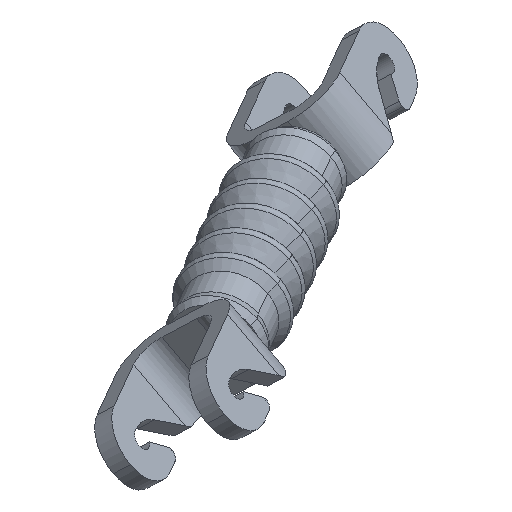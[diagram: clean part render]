
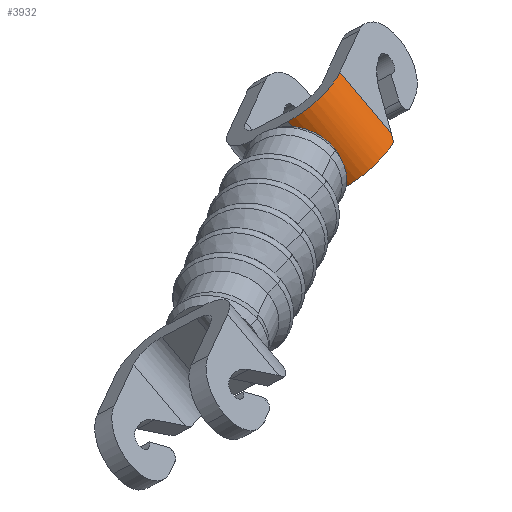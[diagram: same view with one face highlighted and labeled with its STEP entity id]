
A CAD part, isometric view. The second image highlights one B-rep face of the part: STEP entity #3932.
In plain terms, the highlighted cylindrical face has radius 9 mm (diameter 18 mm), a partial arc.
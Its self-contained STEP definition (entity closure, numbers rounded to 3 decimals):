
#116 = AXIS2_PLACEMENT_3D ( 'NONE', #916, #1543, #3016 ) ;
#262 =( BOUNDED_CURVE ( )  B_SPLINE_CURVE ( 3, ( #3231, #3534, #772, #1996 ),
 .UNSPECIFIED., .F., .T. ) 
 B_SPLINE_CURVE_WITH_KNOTS ( ( 4, 4 ),
 ( 4.576, 4.712 ),
 .UNSPECIFIED. ) 
 CURVE ( )  GEOMETRIC_REPRESENTATION_ITEM ( )  RATIONAL_B_SPLINE_CURVE ( ( 1., 0.998, 0.998, 1. ) ) 
 REPRESENTATION_ITEM ( '' )  );
#694 = VECTOR ( 'NONE', #2711, 1000. ) ;
#772 = CARTESIAN_POINT ( 'NONE',  ( -225.662, 466.048, -295.755 ) ) ;
#820 = CARTESIAN_POINT ( 'NONE',  ( -225.438, 466.476, -295.438 ) ) ;
#916 = CARTESIAN_POINT ( 'NONE',  ( -228.542, 471.853, -302.067 ) ) ;
#926 = DIRECTION ( 'NONE',  ( 0.388, -0.672, 0.631 ) ) ;
#964 = CARTESIAN_POINT ( 'NONE',  ( -226.142, 465.254, -296.438 ) ) ;
#1052 = EDGE_LOOP ( 'NONE', ( #1606, #2232, #3664, #3864, #1418 ) ) ;
#1062 = CARTESIAN_POINT ( 'NONE',  ( -236.336, 467.353, -302.067 ) ) ;
#1172 = VERTEX_POINT ( 'NONE', #964 ) ;
#1283 = CARTESIAN_POINT ( 'NONE',  ( -241.387, 476.101, -289.658 ) ) ;
#1325 = VERTEX_POINT ( 'NONE', #820 ) ;
#1328 = DIRECTION ( 'NONE',  ( 0.316, -0.547, -0.776 ) ) ;
#1418 = ORIENTED_EDGE ( 'NONE', *, *, #1856, .F. ) ;
#1502 = VERTEX_POINT ( 'NONE', #1283 ) ;
#1543 = DIRECTION ( 'NONE',  ( -0.316, 0.547, 0.776 ) ) ;
#1606 = ORIENTED_EDGE ( 'NONE', *, *, #2837, .F. ) ;
#1623 = DIRECTION ( 'NONE',  ( 0.388, -0.672, 0.631 ) ) ;
#1746 = LINE ( 'NONE', #3561, #694 ) ;
#1845 = FACE_OUTER_BOUND ( 'NONE', #1052, .T. ) ;
#1856 = EDGE_CURVE ( 'NONE', #2551, #1502, #2027, .T. ) ;
#1905 = AXIS2_PLACEMENT_3D ( 'NONE', #3221, #1328, #1623 ) ;
#1996 = CARTESIAN_POINT ( 'NONE',  ( -225.438, 466.476, -295.438 ) ) ;
#2026 = AXIS2_PLACEMENT_3D ( 'NONE', #3712, #2176, #926 ) ;
#2027 = LINE ( 'NONE', #1062, #2670 ) ;
#2108 = VERTEX_POINT ( 'NONE', #2643 ) ;
#2113 = EDGE_CURVE ( 'NONE', #1172, #1325, #262, .T. ) ;
#2176 = DIRECTION ( 'NONE',  ( 0.316, -0.547, -0.776 ) ) ;
#2232 = ORIENTED_EDGE ( 'NONE', *, *, #2113, .T. ) ;
#2551 = VERTEX_POINT ( 'NONE', #2919 ) ;
#2643 = CARTESIAN_POINT ( 'NONE',  ( -230.103, 474.556, -283.977 ) ) ;
#2670 = VECTOR ( 'NONE', #3544, 1000. ) ;
#2680 = CIRCLE ( 'NONE', #1905, 9. ) ;
#2697 = EDGE_CURVE ( 'NONE', #2108, #1502, #3580, .T. ) ;
#2711 = DIRECTION ( 'NONE',  ( -0.316, 0.547, 0.776 ) ) ;
#2837 = EDGE_CURVE ( 'NONE', #1172, #2551, #2680, .T. ) ;
#2919 = CARTESIAN_POINT ( 'NONE',  ( -236.336, 467.353, -302.067 ) ) ;
#3002 = EDGE_CURVE ( 'NONE', #1325, #2108, #1746, .T. ) ;
#3016 = DIRECTION ( 'NONE',  ( -0.388, 0.672, -0.631 ) ) ;
#3221 = CARTESIAN_POINT ( 'NONE',  ( -228.542, 471.853, -302.067 ) ) ;
#3231 = CARTESIAN_POINT ( 'NONE',  ( -226.142, 465.254, -296.438 ) ) ;
#3335 = CYLINDRICAL_SURFACE ( 'NONE', #116, 9. ) ;
#3534 = CARTESIAN_POINT ( 'NONE',  ( -225.897, 465.641, -296.089 ) ) ;
#3544 = DIRECTION ( 'NONE',  ( -0.316, 0.547, 0.776 ) ) ;
#3561 = CARTESIAN_POINT ( 'NONE',  ( -225.052, 465.809, -296.385 ) ) ;
#3580 = CIRCLE ( 'NONE', #2026, 9. ) ;
#3664 = ORIENTED_EDGE ( 'NONE', *, *, #3002, .T. ) ;
#3712 = CARTESIAN_POINT ( 'NONE',  ( -233.593, 480.601, -289.658 ) ) ;
#3864 = ORIENTED_EDGE ( 'NONE', *, *, #2697, .T. ) ;
#3932 = ADVANCED_FACE ( 'NONE', ( #1845 ), #3335, .T. ) ;
